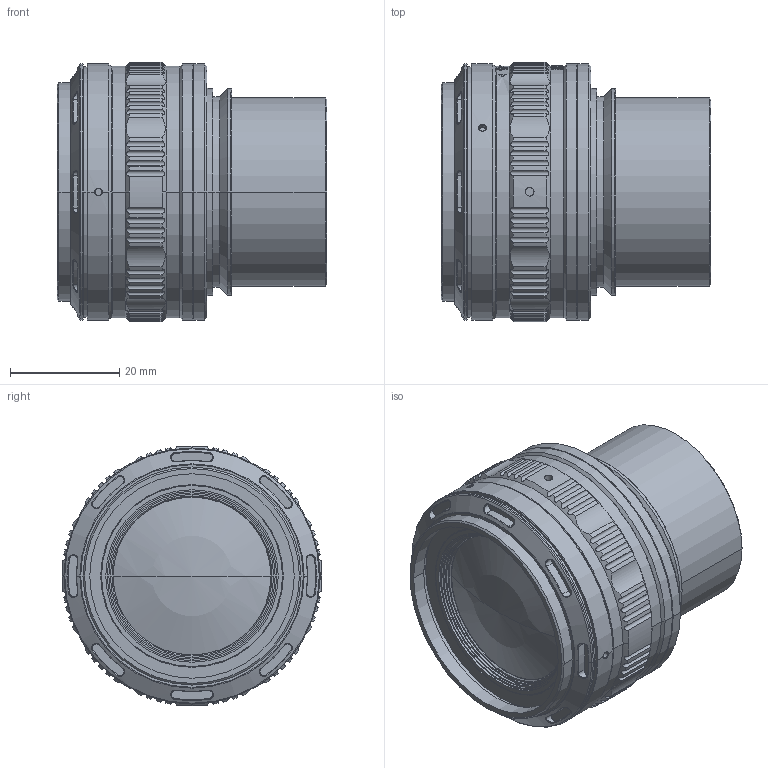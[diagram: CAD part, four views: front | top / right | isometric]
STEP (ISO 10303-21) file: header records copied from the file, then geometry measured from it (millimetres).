
FILE_DESCRIPTION((''),'2;1');
FILE_NAME('PRT0001','2024-06-17T18:52:12',('admin'),(''),'CREO PARAMETRIC BY PTC INC, 2020354','CREO PARAMETRIC BY PTC INC, 2020354','');
FILE_SCHEMA(('AUTOMOTIVE_DESIGN { 1 0 10303 214 1 1 1 1 }'));
Length unit declared in the file: millimetre
Products named in the file (1): PRT0001
Bounding box: 49.5 x 47.7 x 47.7 mm (x, y, z)
Volume: 58992.5 mm3; surface area: 12993.1 mm2
Topology: 1 solids, 4 shells, 747 faces, 1877 edges, 1202 vertices
Faces by surface type: cylinder 287, bspline 198, plane 170, cone 74, torus 14, sphere 4
Entity records: 29459 total; most frequent: CARTESIAN_POINT 12516, ORIENTED_EDGE 3730, DIRECTION 3073, EDGE_CURVE 1865, VERTEX_POINT 1202, AXIS2_PLACEMENT_3D 1152, EDGE_LOOP 829, VECTOR 769
